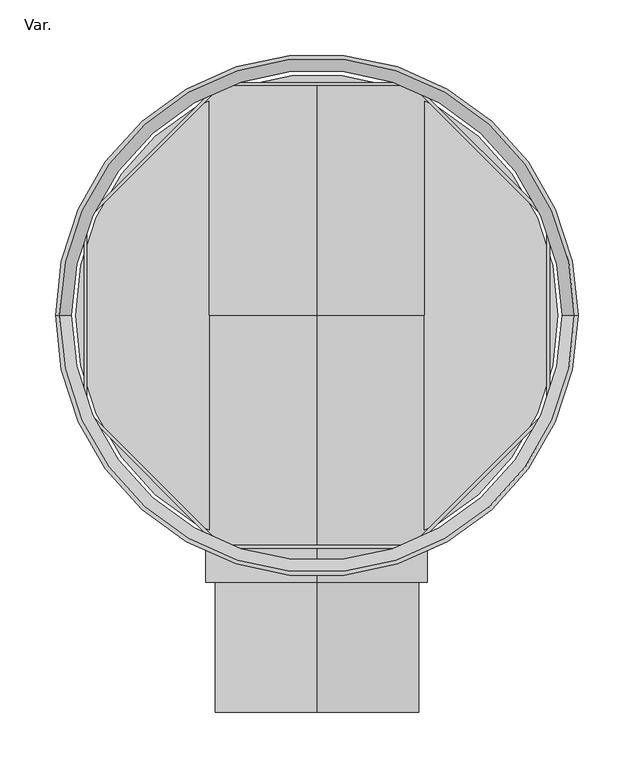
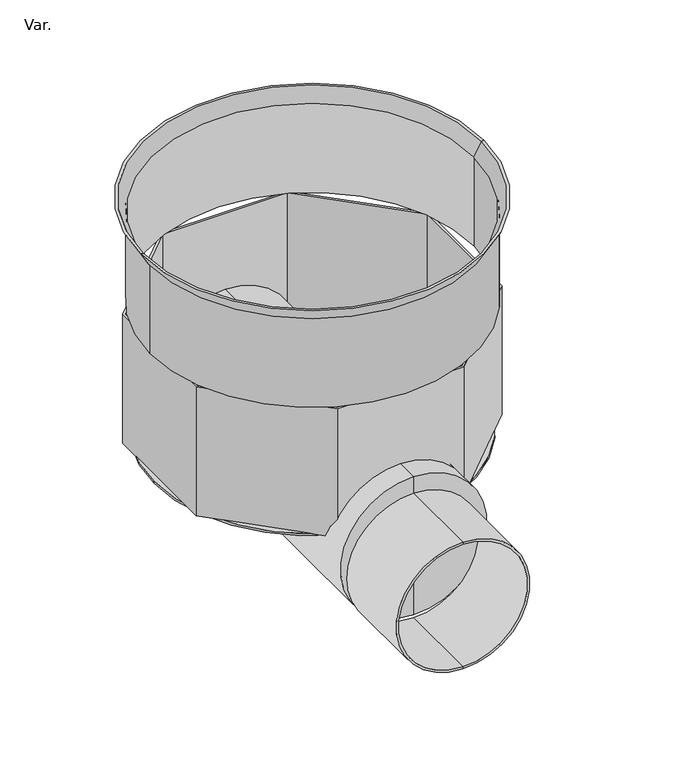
"""IFC4 building model written with IfcOpenShell, lengths in millimetres: pipe fitting geometry, PlastigamaWavin_Unionesdetubería_NovafortCajaAceraArranque175mm : Var.."""

from ifc_helpers import new_model, si_unit, point, frame, origin, origin_with_axes, origin_2d, place, context, project, spatial, polyline, circle_curve, trimmed, segment, composite_curve, outline, extrude, source, transform, mapped, element, save
from ifc_brep_helpers import plane_surface, cylinder_surface, revolved_surface, advanced_brep


def var_44074eec(model_context):
    return source(origin(), model_context, "Body", "SolidModel", [
        advanced_brep(
        [(-231.6019238, 0.0, 148.8205081), (231.6019238, 0.0, 148.8205081), (235.0660254, 0.0, 148.8205081), (-235.0660254, 0.0, 148.8205081), (-220.7358984, 0.0, 130.0), (220.7358984, 0.0, 130.0), (-224.2, 0.0, 130.0), (224.2, 0.0, 130.0)],
        [
            (0, 1, circle_curve(frame((0.0, 0.0, 148.8205081), z_axis=(0.0, 0.0, -1.0), x_axis=(1.0, 0.0, 0.0)), 231.6019238)),
            (1, 2),
            (2, 3, circle_curve(frame((0.0, 0.0, 148.8205081), z_axis=(0.0, 0.0, 1.0), x_axis=(1.0, 0.0, 0.0)), 235.0660254)),
            (3, 0),
            (1, 0, circle_curve(frame((0.0, 0.0, 148.8205081), z_axis=(0.0, 0.0, -1.0), x_axis=(1.0, 0.0, 0.0)), 231.6019238)),
            (3, 2, circle_curve(frame((0.0, 0.0, 148.8205081), z_axis=(0.0, 0.0, 1.0), x_axis=(1.0, 0.0, 0.0)), 235.0660254)),
            (4, 5, circle_curve(frame((0.0, 0.0, 130.0), z_axis=(0.0, 0.0, -1.0), x_axis=(1.0, 0.0, 0.0)), 220.7358984)),
            (5, 1),
            (0, 4),
            (5, 4, circle_curve(frame((0.0, 0.0, 130.0), z_axis=(0.0, 0.0, -1.0), x_axis=(1.0, 0.0, 0.0)), 220.7358984)),
            (6, 7, circle_curve(frame((0.0, 0.0, 130.0), z_axis=(0.0, 0.0, -1.0), x_axis=(1.0, 0.0, 0.0)), 224.2)),
            (7, 5),
            (4, 6),
            (7, 6, circle_curve(frame((0.0, 0.0, 130.0), z_axis=(0.0, 0.0, -1.0), x_axis=(1.0, 0.0, 0.0)), 224.2)),
            (2, 7),
            (6, 3),
        ],
        [
            plane_surface(frame((0.0, 0.0, 148.8205081), z_axis=(0.0, 0.0, 1.0), x_axis=(1.0, 0.0, 0.0))),
            revolved_surface(polyline([(231.6019238, 0.0, 148.8205081), (220.7358984, 0.0, 130.0)]), (0.0, 0.0, 2214.3150031), (0.0, 0.0, 1.0)),
            plane_surface(frame((0.0, 0.0, 130.0), z_axis=(0.0, 0.0, -1.0), x_axis=(1.0, 0.0, 0.0))),
            revolved_surface(polyline([(224.2, 0.0, 130.0), (235.0660254, 0.0, 148.8205081)]), (0.0, 0.0, 2214.3150031), (0.0, 0.0, 1.0)),
        ],
        [
            (0, [[1, 2, 3, 4]]),
            (0, [[5, -4, 6, -2]]),
            (1, [[7, 8, -1, 9]]),
            (1, [[10, -9, -5, -8]]),
            (2, [[11, 12, -7, 13]]),
            (2, [[14, -13, -10, -12]]),
            (3, [[-3, 15, -11, 16]]),
            (3, [[-6, -16, -14, -15]]),
        ],
    ),
        advanced_brep(
        [(0.0, 209.44, -309.99), (0.0, 209.44, -109.99), (0.0, 209.44, -209.99), (0.0, 0.0, -209.99), (0.0, 0.0, -109.99), (0.0, 0.0, -309.99)],
        [
            (0, 1, circle_curve(frame((0.0, 209.44, -209.99), z_axis=(0.0, 1.0, 0.0), x_axis=(0.0, 0.0, 1.0)), 100.0)),
            (1, 2),
            (2, 0),
            (1, 0, circle_curve(frame((0.0, 209.44, -209.99), z_axis=(0.0, 1.0, 0.0), x_axis=(0.0, 0.0, 1.0)), 100.0)),
            (3, 4),
            (4, 5, circle_curve(frame((0.0, 0.0, -209.99), z_axis=(0.0, -1.0, 0.0), x_axis=(0.0, 0.0, 1.0)), 100.0)),
            (5, 3),
            (5, 4, circle_curve(frame((0.0, 0.0, -209.99), z_axis=(0.0, -1.0, 0.0), x_axis=(0.0, 0.0, 1.0)), 100.0)),
            (4, 1),
            (0, 5),
        ],
        [
            plane_surface(frame((0.0, 209.44, -209.99), z_axis=(0.0, 1.0, 0.0), x_axis=(0.0, 0.0, 1.0))),
            plane_surface(frame((0.0, 0.0, -209.99), z_axis=(0.0, -1.0, 0.0), x_axis=(0.0, 0.0, 1.0))),
            cylinder_surface(frame((0.0, 0.0, -209.99), z_axis=(0.0, -1.0, 0.0), x_axis=(0.0, 0.0, 1.0)), 100.0),
        ],
        [
            (0, [[1, 2, 3]]),
            (0, [[4, -3, -2]]),
            (1, [[5, 6, 7]]),
            (1, [[-7, 8, -5]]),
            (2, [[-6, 9, -1, 10]]),
            (2, [[-8, -10, -4, -9]]),
        ],
    ),
        extrude(outline(composite_curve([segment(trimmed(circle_curve(origin_2d(), 217.0), [point((-217.0, 0.0))], [point((217.0, 0.0))], False, "CARTESIAN"), True, "CONTINUOUS"), segment(trimmed(circle_curve(origin_2d(), 217.0), [point((217.0, 0.0))], [point((-217.0, 0.0))], False, "CARTESIAN"), True, "CONTINUOUS")], self_intersect=False)), frame((0.0, 0.0, -189.41), z_axis=(0.0, 0.0, 1.0), x_axis=(1.0, 0.0, 0.0)), (0.0, 0.0, 1.0), 3.0),
        advanced_brep(
        [(0.0, -357.2, -314.25), (0.0, -357.2, -137.15), (0.0, -357.2, -134.15), (0.0, -357.2, -317.25), (0.0, -240.2, -317.25), (0.0, -240.2, -134.15), (0.0, -240.2, -137.15), (0.0, -240.2, -314.25)],
        [
            (0, 1, circle_curve(frame((0.0, -357.2, -225.7), z_axis=(0.0, 1.0, 0.0), x_axis=(0.0, 0.0, 1.0)), 88.55)),
            (1, 2),
            (2, 3, circle_curve(frame((0.0, -357.2, -225.7), z_axis=(0.0, -1.0, 0.0), x_axis=(0.0, 0.0, 1.0)), 91.55)),
            (3, 0),
            (1, 0, circle_curve(frame((0.0, -357.2, -225.7), z_axis=(0.0, 1.0, 0.0), x_axis=(0.0, 0.0, 1.0)), 88.55)),
            (3, 2, circle_curve(frame((0.0, -357.2, -225.7), z_axis=(0.0, -1.0, 0.0), x_axis=(0.0, 0.0, 1.0)), 91.55)),
            (4, 5, circle_curve(frame((0.0, -240.2, -225.7), z_axis=(0.0, 1.0, 0.0), x_axis=(0.0, 0.0, 1.0)), 91.55)),
            (5, 6),
            (6, 7, circle_curve(frame((0.0, -240.2, -225.7), z_axis=(0.0, -1.0, 0.0), x_axis=(0.0, 0.0, 1.0)), 88.55)),
            (7, 4),
            (5, 4, circle_curve(frame((0.0, -240.2, -225.7), z_axis=(0.0, 1.0, 0.0), x_axis=(0.0, 0.0, 1.0)), 91.55)),
            (7, 6, circle_curve(frame((0.0, -240.2, -225.7), z_axis=(0.0, -1.0, 0.0), x_axis=(0.0, 0.0, 1.0)), 88.55)),
            (2, 5),
            (4, 3),
            (6, 1),
            (0, 7),
        ],
        [
            plane_surface(frame((0.0, -357.2, -225.7), z_axis=(0.0, -1.0, 0.0), x_axis=(0.0, 0.0, 1.0))),
            plane_surface(frame((0.0, -240.2, -225.7), z_axis=(0.0, 1.0, 0.0), x_axis=(0.0, 0.0, 1.0))),
            cylinder_surface(frame((0.0, -249.0327013, -225.7), z_axis=(0.0, -1.0, 0.0), x_axis=(0.0, 0.0, 1.0)), 91.55),
            revolved_surface(polyline([(0.0, -357.2, -137.14999999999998), (0.0, -240.2, -137.14999999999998)]), (0.0, -249.0327013, -225.7), (0.0, -1.0, 0.0)),
        ],
        [
            (0, [[1, 2, 3, 4]]),
            (0, [[5, -4, 6, -2]]),
            (1, [[7, 8, 9, 10]]),
            (1, [[11, -10, 12, -8]]),
            (2, [[-3, 13, -7, 14]]),
            (2, [[-6, -14, -11, -13]]),
            (3, [[-9, 15, -1, 16]]),
            (3, [[-12, -16, -5, -15]]),
        ],
    ),
        advanced_brep(
        [(0.0, -240.2, -209.99), (0.0, -240.2, -109.99), (0.0, -240.2, -309.99), (0.0, 0.0, -309.99), (0.0, 0.0, -109.99), (0.0, 0.0, -209.99)],
        [
            (0, 1),
            (1, 2, circle_curve(frame((0.0, -240.2, -209.99), z_axis=(0.0, -1.0, 0.0), x_axis=(0.0, 0.0, 1.0)), 100.0)),
            (2, 0),
            (2, 1, circle_curve(frame((0.0, -240.2, -209.99), z_axis=(0.0, -1.0, 0.0), x_axis=(0.0, 0.0, 1.0)), 100.0)),
            (3, 4, circle_curve(frame((0.0, 0.0, -209.99), z_axis=(0.0, 1.0, 0.0), x_axis=(0.0, 0.0, 1.0)), 100.0)),
            (4, 5),
            (5, 3),
            (4, 3, circle_curve(frame((0.0, 0.0, -209.99), z_axis=(0.0, 1.0, 0.0), x_axis=(0.0, 0.0, 1.0)), 100.0)),
            (1, 4),
            (3, 2),
        ],
        [
            plane_surface(frame((0.0, -240.2, -209.99), z_axis=(0.0, -1.0, 0.0), x_axis=(0.0, 0.0, 1.0))),
            plane_surface(frame((0.0, 0.0, -209.99), z_axis=(0.0, 1.0, 0.0), x_axis=(0.0, 0.0, 1.0))),
            cylinder_surface(frame((0.0, 0.0, -209.99), z_axis=(0.0, -1.0, 0.0), x_axis=(0.0, 0.0, 1.0)), 100.0),
        ],
        [
            (0, [[1, 2, 3]]),
            (0, [[-3, 4, -1]]),
            (1, [[5, 6, 7]]),
            (1, [[8, -7, -6]]),
            (2, [[-2, 9, -5, 10]]),
            (2, [[-4, -10, -8, -9]]),
        ],
    ),
        extrude(outline(composite_curve([segment(trimmed(circle_curve(origin_2d(), 222.2), [point((-222.2, 0.0))], [point((222.2, 0.0))], False, "CARTESIAN"), True, "CONTINUOUS"), segment(trimmed(circle_curve(origin_2d(), 222.2), [point((222.2, 0.0))], [point((-222.2, 0.0))], False, "CARTESIAN"), True, "CONTINUOUS")], self_intersect=False), holes=[composite_curve([segment(trimmed(circle_curve(origin_2d(), 222.0), [point((-222.0, 0.0))], [point((222.0, 0.0))], True, "CARTESIAN"), True, "CONTINUOUS"), segment(trimmed(circle_curve(origin_2d(), 222.0), [point((222.0, 0.0))], [point((-222.0, 0.0))], True, "CARTESIAN"), True, "CONTINUOUS")], self_intersect=False)]), origin_with_axes(), (0.0, 0.0, 1.0), 130.0),
        extrude(outline(polyline([(-209.44, 86.7528885), (-86.7528885, 209.44), (86.7528885, 209.44), (209.44, 86.7528885), (209.44, -86.7528885), (86.7528885, -209.44), (-86.7528885, -209.44), (-209.44, -86.7528885), (-209.44, 86.7528885)]), holes=[polyline([(206.44, 85.5102478), (85.5102478, 206.44), (-85.5102478, 206.44), (-206.44, 85.5102478), (-206.44, -85.5102478), (-85.5102478, -206.44), (85.5102478, -206.44), (206.44, -85.5102478), (206.44, 85.5102478)])]), frame((0.0, 0.0, -186.41), z_axis=(0.0, 0.0, 1.0), x_axis=(1.0, 0.0, 0.0)), (0.0, 0.0, 1.0), 186.41),
    ])


if __name__ == "__main__":
    model = new_model("IFC4")
    model_context = context("Model", 3, world=origin())
    ifc_project = project(units=[si_unit("LENGTHUNIT", "METRE", prefix="MILLI")], contexts=[model_context])
    site = spatial("IfcSite", under=ifc_project)
    building = spatial("IfcBuilding", under=site)
    placement = place(None, origin())
    var_shape = var_44074eec(model_context)
    element("IfcPipeFitting", 1, ObjectType="PlastigamaWavin_Unionesdetubería_NovafortCajaAceraArranque175mm : Var.", at=placement, inside=building, context=model_context, shape_type="MappedRepresentation", body=[
        mapped(var_shape, transform((0.0, 0.0, 0.0), x_axis=(1.0, 0.0, 0.0), y_axis=(0.0, 1.0, 0.0), z_axis=(0.0, 0.0, 1.0))),
    ])
    save(model, "model.ifc")
